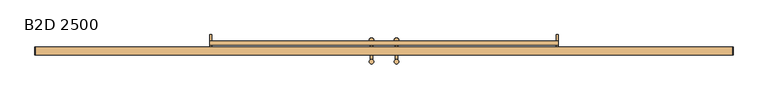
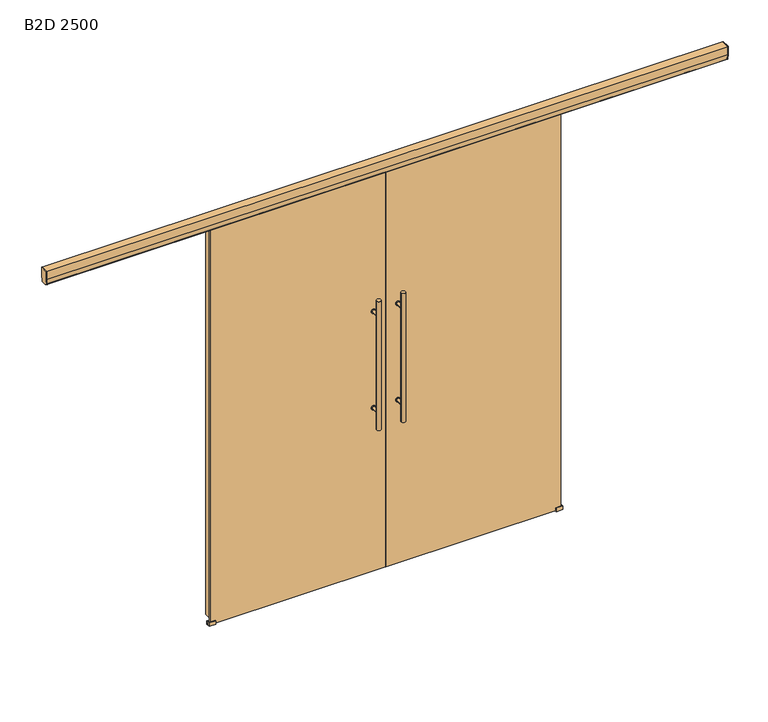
"""IFC4 building model written with IfcOpenShell, lengths in millimetres: door geometry, Mobiliário_Mobiliário de Escritório_Porta Dupla de Correr - BD_Marelli : B2D 2500."""

from ifc_helpers import new_model, si_unit, point, frame, frame_2d, origin, origin_with_axes, place, context, project, spatial, polyline, circle_curve, trimmed, segment, composite_curve, outline, extrude, source, transform, mapped, element, save


def b2d_2500_7e9c2a50(model_context):
    return source(origin(), model_context, "Body", "SweptSolid", [
        extrude(outline(polyline([(348.5735443, -30.5), (361.2735443, -30.5), (361.2735443, -100.0), (348.5735443, -100.0), (348.5735443, -30.5)])), origin_with_axes(), (0.0, 0.0, 1.0), 2475.0),
        extrude(outline(polyline([(2348.5735443, -30.5), (2348.5735443, -100.0), (2335.8735443, -100.0), (2335.8735443, -30.5), (2348.5735443, -30.5)])), origin_with_axes(), (0.0, 0.0, 1.0), 2475.0),
        extrude(outline(polyline([(1347.5540863, -129.0), (318.5735443, -129.0), (318.5735443, -119.0), (1347.5540863, -119.0), (1347.5540863, -129.0)])), frame((0.0, 0.0, 4.5), z_axis=(0.0, 0.0, 1.0), x_axis=(1.0, 0.0, 0.0)), (0.0, 0.0, 1.0), 2495.5),
        extrude(outline(polyline([(2378.5735443, -129.0), (1349.5930024, -129.0), (1349.5930024, -119.0), (2378.5735443, -119.0), (2378.5735443, -129.0)])), frame((0.0, 0.0, 4.5), z_axis=(0.0, 0.0, 1.0), x_axis=(1.0, 0.0, 0.0)), (0.0, 0.0, 1.0), 2495.5),
        extrude(outline(polyline([(-68.3, 2500.0), (-68.3, 2475.0), (-83.8, 2475.0), (-83.8, 2484.0), (-90.3, 2484.0), (-90.3, 2500.0), (-68.3, 2500.0)])), frame((348.5735443, 0.0, 0.0), z_axis=(1.0, 0.0, 0.0), x_axis=(0.0, 1.0, 0.0)), (0.0, 0.0, 1.0), 2000.0),
        extrude(outline(composite_curve([segment(polyline([(-148.0, 2550.0099534), (-100.0, 2550.0099534), (-100.0, 2500.0099534), (-103.3526316, 2470.2787193)]), True, "CONTINUOUS"), segment(trimmed(circle_curve(frame_2d((-109.9731658, 2471.7910743)), 6.7910743), [point((-103.3526316, 2470.2787193))], [point((-109.9731658, 2465.0))], False, "CARTESIAN"), True, "CONTINUOUS"), segment(polyline([(-109.9731658, 2465.0), (-138.0268342, 2465.0)]), True, "CONTINUOUS"), segment(trimmed(circle_curve(frame_2d((-138.0268342, 2471.7910743)), 6.7910743), [point((-138.0268342, 2465.0))], [point((-144.6473684, 2470.2787193))], False, "CARTESIAN"), True, "CONTINUOUS"), segment(polyline([(-144.6473684, 2470.2787193), (-148.0, 2500.0099534), (-148.0, 2550.0099534)]), True, "CONTINUOUS")], self_intersect=False)), frame((-654.4264557, 0.0, 0.0), z_axis=(1.0, 0.0, 0.0), x_axis=(0.0, 1.0, 0.0)), (0.0, 0.0, 1.0), 3.0),
        extrude(outline(composite_curve([segment(polyline([(-148.0, 2550.0), (-100.0, 2550.0), (-100.0, 2500.0), (-103.3526316, 2470.2687659)]), True, "CONTINUOUS"), segment(trimmed(circle_curve(frame_2d((-109.9731658, 2471.781121)), 6.7910743), [point((-103.3526316, 2470.2687659))], [point((-109.9731658, 2464.9900466))], False, "CARTESIAN"), True, "CONTINUOUS"), segment(polyline([(-109.9731658, 2464.9900466), (-138.0268342, 2464.9900466)]), True, "CONTINUOUS"), segment(trimmed(circle_curve(frame_2d((-138.0268342, 2471.781121)), 6.7910743), [point((-138.0268342, 2464.9900466))], [point((-144.6473684, 2470.2687659))], False, "CARTESIAN"), True, "CONTINUOUS"), segment(polyline([(-144.6473684, 2470.2687659), (-148.0, 2500.0), (-148.0, 2550.0)]), True, "CONTINUOUS")], self_intersect=False)), frame((3348.5735443, 0.0, 0.0), z_axis=(1.0, 0.0, 0.0), x_axis=(0.0, 1.0, 0.0)), (0.0, 0.0, 1.0), 3.0),
        extrude(outline(composite_curve([segment(polyline([(-148.0, 2550.0), (-100.0, 2550.0), (-100.0, 2500.0), (-103.3526316, 2470.2687659)]), True, "CONTINUOUS"), segment(trimmed(circle_curve(frame_2d((-109.9731658, 2471.781121)), 6.7910743), [point((-103.3526316, 2470.2687659))], [point((-109.9731658, 2464.9900466))], False, "CARTESIAN"), True, "CONTINUOUS"), segment(polyline([(-109.9731658, 2464.9900466), (-119.0, 2464.9900466), (-119.0, 2468.4900466), (-109.9731658, 2468.4900466)]), True, "CONTINUOUS"), segment(trimmed(circle_curve(frame_2d((-109.9731658, 2471.781121)), 3.2910743), [point((-109.9731658, 2468.4900466))], [point((-106.8045793, 2470.8916099))], True, "CARTESIAN"), True, "CONTINUOUS"), segment(polyline([(-106.8045793, 2470.8916099), (-103.5, 2500.1967147), (-103.5, 2546.5), (-144.5, 2546.5), (-144.5, 2500.1967147), (-141.1954207, 2470.8916099)]), True, "CONTINUOUS"), segment(trimmed(circle_curve(frame_2d((-138.0268342, 2471.781121)), 3.2910743), [point((-141.1954207, 2470.8916099))], [point((-138.0268342, 2468.4900466))], True, "CARTESIAN"), True, "CONTINUOUS"), segment(polyline([(-138.0268342, 2468.4900466), (-129.0, 2468.4900466), (-129.0, 2464.9900466), (-138.0268342, 2464.9900466)]), True, "CONTINUOUS"), segment(trimmed(circle_curve(frame_2d((-138.0268342, 2471.781121)), 6.7910743), [point((-138.0268342, 2464.9900466))], [point((-144.6473684, 2470.2687659))], False, "CARTESIAN"), True, "CONTINUOUS"), segment(polyline([(-144.6473684, 2470.2687659), (-148.0, 2500.0), (-148.0, 2550.0)]), True, "CONTINUOUS")], self_intersect=False)), frame((-651.4264557, 0.0, 0.0), z_axis=(1.0, 0.0, 0.0), x_axis=(0.0, 1.0, 0.0)), (0.0, 0.0, 1.0), 4000.0),
        extrude(outline(polyline([(-113.0, 22.0), (-113.0, 0.0), (-135.0, 0.0), (-135.0, 22.0), (-130.3, 22.0), (-129.5, 19.0), (-129.5, 4.5), (-118.5, 4.5), (-118.5, 19.0), (-117.7, 22.0), (-113.0, 22.0)])), frame((308.5735443, 0.0, 0.0), z_axis=(1.0, 0.0, 0.0), x_axis=(0.0, 1.0, 0.0)), (0.0, 0.0, 1.0), 40.0),
        extrude(outline(polyline([(-113.0, 22.0), (-113.0, 0.0), (-135.0, 0.0), (-135.0, 22.0), (-130.3, 22.0), (-129.5, 19.0), (-129.5, 4.5), (-118.5, 4.5), (-118.5, 19.0), (-117.7, 22.0), (-113.0, 22.0)])), frame((2348.5735443, 0.0, 0.0), z_axis=(1.0, 0.0, 0.0), x_axis=(0.0, 1.0, 0.0)), (0.0, 0.0, 1.0), 40.0),
        extrude(outline(composite_curve([segment(trimmed(circle_curve(frame_2d((1020.0, 1276.8040863)), 12.7), [point((1020.0, 1264.1040863))], [point((1020.0, 1289.5040863))], False, "CARTESIAN"), True, "CONTINUOUS"), segment(trimmed(circle_curve(frame_2d((1020.0, 1276.8040863)), 12.7), [point((1020.0, 1289.5040863))], [point((1020.0, 1264.1040863))], False, "CARTESIAN"), True, "CONTINUOUS")], self_intersect=False)), frame((0.0, -133.0, 0.0), z_axis=(0.0, 1.0, 0.0), x_axis=(0.0, 0.0, 1.0)), (0.0, 0.0, 1.0), 18.0),
        extrude(outline(composite_curve([segment(trimmed(circle_curve(frame_2d((1020.0, 1420.3430024)), 12.7), [point((1020.0, 1433.0430024))], [point((1020.0, 1407.6430024))], False, "CARTESIAN"), True, "CONTINUOUS"), segment(trimmed(circle_curve(frame_2d((1020.0, 1420.3430024)), 12.7), [point((1020.0, 1407.6430024))], [point((1020.0, 1433.0430024))], False, "CARTESIAN"), True, "CONTINUOUS")], self_intersect=False)), frame((0.0, -133.0, 0.0), z_axis=(0.0, 1.0, 0.0), x_axis=(0.0, 0.0, 1.0)), (0.0, 0.0, 1.0), 18.0),
        extrude(outline(composite_curve([segment(trimmed(circle_curve(frame_2d((1620.0, 1276.8040863)), 12.7), [point((1620.0, 1264.1040863))], [point((1620.0, 1289.5040863))], False, "CARTESIAN"), True, "CONTINUOUS"), segment(trimmed(circle_curve(frame_2d((1620.0, 1276.8040863)), 12.7), [point((1620.0, 1289.5040863))], [point((1620.0, 1264.1040863))], False, "CARTESIAN"), True, "CONTINUOUS")], self_intersect=False)), frame((0.0, -133.0, 0.0), z_axis=(0.0, 1.0, 0.0), x_axis=(0.0, 0.0, 1.0)), (0.0, 0.0, 1.0), 18.0),
        extrude(outline(composite_curve([segment(trimmed(circle_curve(frame_2d((1620.0, 1420.3430024)), 12.7), [point((1620.0, 1433.0430024))], [point((1620.0, 1407.6430024))], False, "CARTESIAN"), True, "CONTINUOUS"), segment(trimmed(circle_curve(frame_2d((1620.0, 1420.3430024)), 12.7), [point((1620.0, 1407.6430024))], [point((1620.0, 1433.0430024))], False, "CARTESIAN"), True, "CONTINUOUS")], self_intersect=False)), frame((0.0, -133.0, 0.0), z_axis=(0.0, 1.0, 0.0), x_axis=(0.0, 0.0, 1.0)), (0.0, 0.0, 1.0), 18.0),
        extrude(outline(composite_curve([segment(trimmed(circle_curve(frame_2d((1020.0, 1276.8040863)), 8.0), [point((1020.0, 1268.8040863))], [point((1020.0, 1284.8040863))], False, "CARTESIAN"), True, "CONTINUOUS"), segment(trimmed(circle_curve(frame_2d((1020.0, 1276.8040863)), 8.0), [point((1020.0, 1284.8040863))], [point((1020.0, 1268.8040863))], False, "CARTESIAN"), True, "CONTINUOUS")], self_intersect=False)), frame((0.0, -186.2, 0.0), z_axis=(0.0, 1.0, 0.0), x_axis=(0.0, 0.0, 1.0)), (0.0, 0.0, 1.0), 124.4),
        extrude(outline(composite_curve([segment(trimmed(circle_curve(frame_2d((1020.0, 1420.3430024)), 8.0), [point((1020.0, 1428.3430024))], [point((1020.0, 1412.3430024))], False, "CARTESIAN"), True, "CONTINUOUS"), segment(trimmed(circle_curve(frame_2d((1020.0, 1420.3430024)), 8.0), [point((1020.0, 1412.3430024))], [point((1020.0, 1428.3430024))], False, "CARTESIAN"), True, "CONTINUOUS")], self_intersect=False)), frame((0.0, -186.2, 0.0), z_axis=(0.0, 1.0, 0.0), x_axis=(0.0, 0.0, 1.0)), (0.0, 0.0, 1.0), 124.4),
        extrude(outline(composite_curve([segment(trimmed(circle_curve(frame_2d((1620.0, 1276.8040863)), 8.0), [point((1620.0, 1268.8040863))], [point((1620.0, 1284.8040863))], False, "CARTESIAN"), True, "CONTINUOUS"), segment(trimmed(circle_curve(frame_2d((1620.0, 1276.8040863)), 8.0), [point((1620.0, 1284.8040863))], [point((1620.0, 1268.8040863))], False, "CARTESIAN"), True, "CONTINUOUS")], self_intersect=False)), frame((0.0, -186.2, 0.0), z_axis=(0.0, 1.0, 0.0), x_axis=(0.0, 0.0, 1.0)), (0.0, 0.0, 1.0), 124.4),
        extrude(outline(composite_curve([segment(trimmed(circle_curve(frame_2d((1620.0, 1420.3430024)), 8.0), [point((1620.0, 1428.3430024))], [point((1620.0, 1412.3430024))], False, "CARTESIAN"), True, "CONTINUOUS"), segment(trimmed(circle_curve(frame_2d((1620.0, 1420.3430024)), 8.0), [point((1620.0, 1412.3430024))], [point((1620.0, 1428.3430024))], False, "CARTESIAN"), True, "CONTINUOUS")], self_intersect=False)), frame((0.0, -186.2, 0.0), z_axis=(0.0, 1.0, 0.0), x_axis=(0.0, 0.0, 1.0)), (0.0, 0.0, 1.0), 124.4),
        extrude(outline(composite_curve([segment(trimmed(circle_curve(frame_2d((1276.8040863, -61.8)), 12.7), [point((1289.5040863, -61.8))], [point((1264.1040863, -61.8))], False, "CARTESIAN"), True, "CONTINUOUS"), segment(trimmed(circle_curve(frame_2d((1276.8040863, -61.8)), 12.7), [point((1264.1040863, -61.8))], [point((1289.5040863, -61.8))], False, "CARTESIAN"), True, "CONTINUOUS")], self_intersect=False)), frame((0.0, 0.0, 920.0), z_axis=(0.0, 0.0, 1.0), x_axis=(1.0, 0.0, 0.0)), (0.0, 0.0, 1.0), 800.0),
        extrude(outline(composite_curve([segment(trimmed(circle_curve(frame_2d((1276.8040863, -186.2)), 12.7), [point((1289.5040863, -186.2))], [point((1264.1040863, -186.2))], False, "CARTESIAN"), True, "CONTINUOUS"), segment(trimmed(circle_curve(frame_2d((1276.8040863, -186.2)), 12.7), [point((1264.1040863, -186.2))], [point((1289.5040863, -186.2))], False, "CARTESIAN"), True, "CONTINUOUS")], self_intersect=False)), frame((0.0, 0.0, 920.0), z_axis=(0.0, 0.0, 1.0), x_axis=(1.0, 0.0, 0.0)), (0.0, 0.0, 1.0), 800.0),
        extrude(outline(composite_curve([segment(trimmed(circle_curve(frame_2d((1420.3430024, -61.8)), 12.7), [point((1407.6430024, -61.8))], [point((1433.0430024, -61.8))], False, "CARTESIAN"), True, "CONTINUOUS"), segment(trimmed(circle_curve(frame_2d((1420.3430024, -61.8)), 12.7), [point((1433.0430024, -61.8))], [point((1407.6430024, -61.8))], False, "CARTESIAN"), True, "CONTINUOUS")], self_intersect=False)), frame((0.0, 0.0, 920.0), z_axis=(0.0, 0.0, 1.0), x_axis=(1.0, 0.0, 0.0)), (0.0, 0.0, 1.0), 800.0),
        extrude(outline(composite_curve([segment(trimmed(circle_curve(frame_2d((1420.3430024, -186.2)), 12.7), [point((1407.6430024, -186.2))], [point((1433.0430024, -186.2))], False, "CARTESIAN"), True, "CONTINUOUS"), segment(trimmed(circle_curve(frame_2d((1420.3430024, -186.2)), 12.7), [point((1433.0430024, -186.2))], [point((1407.6430024, -186.2))], False, "CARTESIAN"), True, "CONTINUOUS")], self_intersect=False)), frame((0.0, 0.0, 920.0), z_axis=(0.0, 0.0, 1.0), x_axis=(1.0, 0.0, 0.0)), (0.0, 0.0, 1.0), 800.0),
    ])


if __name__ == "__main__":
    model = new_model("IFC4")
    model_context = context("Model", 3, world=origin())
    ifc_project = project(units=[si_unit("LENGTHUNIT", "METRE", prefix="MILLI")], contexts=[model_context])
    site = spatial("IfcSite", under=ifc_project)
    building = spatial("IfcBuilding", under=site)
    placement = place(None, origin())
    b2d_2500_shape = b2d_2500_7e9c2a50(model_context)
    element("IfcDoor", 1, ObjectType="Mobiliário_Mobiliário de Escritório_Porta Dupla de Correr - BD_Marelli : B2D 2500", at=placement, inside=building, context=model_context, shape_type="MappedRepresentation", body=[
        mapped(b2d_2500_shape, transform((0.0, 0.0, 0.0), x_axis=(1.0, 0.0, 0.0), y_axis=(0.0, 1.0, 0.0), z_axis=(0.0, 0.0, 1.0))),
    ])
    save(model, "model.ifc")
